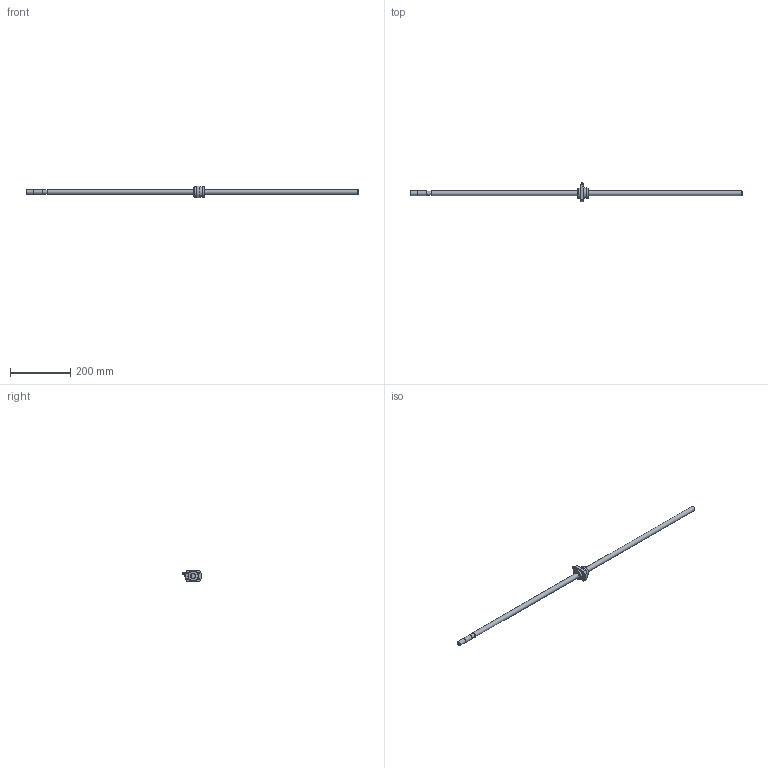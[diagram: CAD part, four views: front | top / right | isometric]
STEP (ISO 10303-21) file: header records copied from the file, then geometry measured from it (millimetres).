
FILE_DESCRIPTION((''),'2;1');
FILE_NAME('D:\製品 (図面)\カタログ用3D\ネジ関連\STEP形式\KBS(C)\KBS1632-1100(H形).stp','2010-06-01T16:53:09',('Tsuchiya'),(''),'Autodesk Inventor 10','Autodesk Inventor 10','');
FILE_SCHEMA(('AUTOMOTIVE_DESIGN { 1 0 10303 214 1 1 1 1 }'));
Length unit declared in the file: millimetre
Products named in the file (3): KBS1632-1100(H形); KBS1632-1100(H形)1; KBS1632-1100(H形)2
Assembly tree (2 placements, depth 2):
  KBS1632-1100(H形)
    KBS1632-1100(H形)1
    KBS1632-1100(H形)2
Bounding box: 1100 x 63.8 x 38 mm (x, y, z)
Volume: 256400.5 mm3; surface area: 65803.8 mm2
Topology: 3 solids, 3 shells, 51 faces, 102 edges, 63 vertices
Faces by surface type: plane 20, cylinder 12, cone 11, bspline 6, sphere 2
Full cylindrical faces by diameter (mm): 7 x1, 13.5 x1, 15.5 x1, 16 x3, 34.5 x2, 35 x2
Entity records: 1400 total; most frequent: CARTESIAN_POINT 382, DIRECTION 212, ORIENTED_EDGE 142, AXIS2_PLACEMENT_3D 99, EDGE_LOOP 94, EDGE_CURVE 71, VERTEX_POINT 57, FACE_OUTER_BOUND 51
